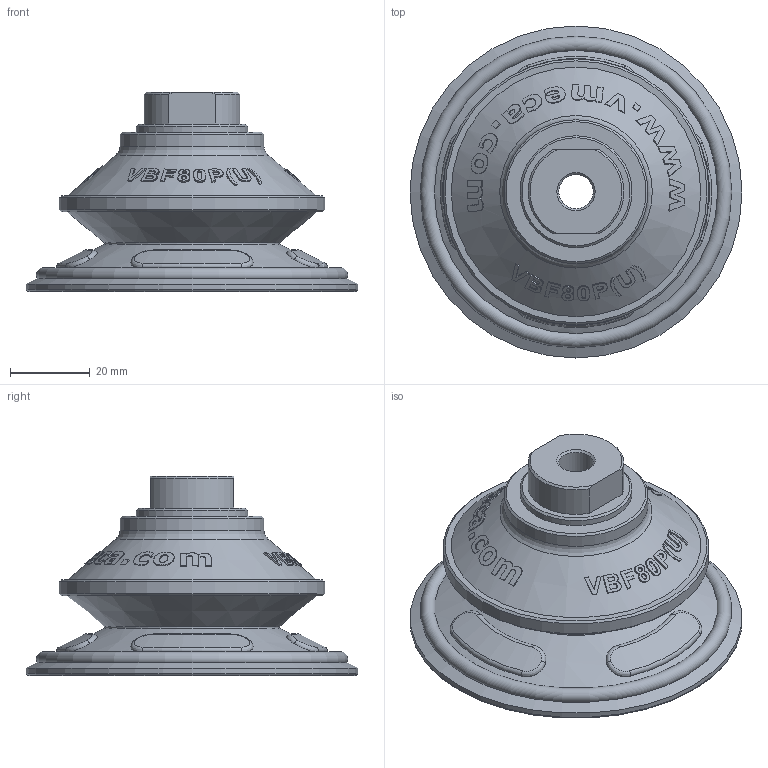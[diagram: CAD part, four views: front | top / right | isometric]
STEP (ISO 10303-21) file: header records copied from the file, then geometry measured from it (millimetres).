
FILE_DESCRIPTION( ( 'Unknown' ), '1' );
FILE_NAME( 'D:/濛機奢濰/Vacuum Pads/VBF/VBF80/STP/VBF80 P(U)_18F.stp', 'Unknown', ( 'Unknown' ), ( 'Unknown' ), 'XStep 1.0', 'Unknown', ' ' );
FILE_SCHEMA( ( 'automotive_design' ) );
Length unit declared in the file: millimetre
Products named in the file (1): 1
Bounding box: 83 x 83 x 50 mm (x, y, z)
Volume: 45700.2 mm3; surface area: 26186.5 mm2
Topology: 1 solids, 1 shells, 263 faces, 641 edges, 421 vertices
Faces by surface type: bspline 174, cone 51, torus 15, plane 12, cylinder 11
Full cylindrical faces by diameter (mm): 8.566 x2, 8.6 x1, 11.2 x1, 28 x1, 33 x1, 36 x1, 66.5 x1, 83 x1
Entity records: 21340 total; most frequent: CARTESIAN_POINT 14674, ORIENTED_EDGE 1194, EDGE_CURVE 597, B_SPLINE_CURVE_WITH_KNOTS 504, VERTEX_POINT 415, DIRECTION 358, EDGE_LOOP 344, FACE_OUTER_BOUND 285
